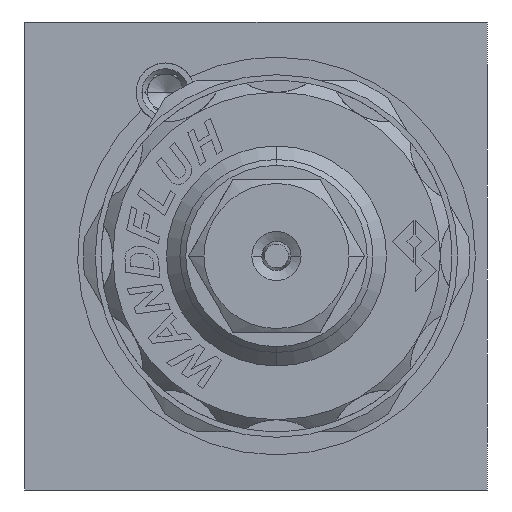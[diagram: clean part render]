
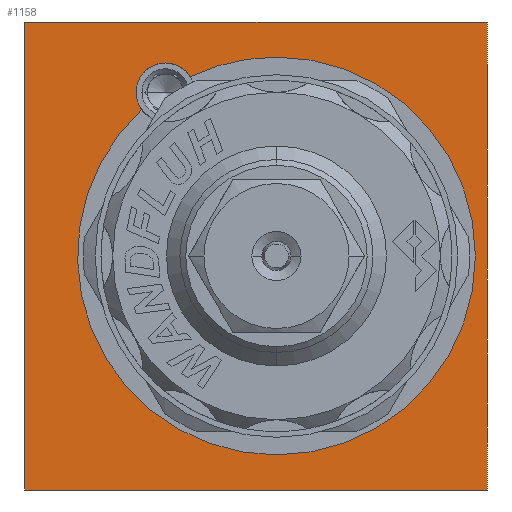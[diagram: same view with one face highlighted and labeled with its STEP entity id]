
A CAD part, left-side view. The second image highlights one B-rep face of the part: STEP entity #1158.
In plain terms, the highlighted planar face has unit normal (-1, 0, 0).
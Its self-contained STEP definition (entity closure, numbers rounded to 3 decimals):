
#792 = DIRECTION ( 'NONE',  ( 0., -1., 0. ) ) ;
#1158 = ADVANCED_FACE ( 'NONE', ( #14007, #13747 ), #12692, .T. ) ;
#1283 = CIRCLE ( 'NONE', #18561, 17. ) ;
#1343 = VERTEX_POINT ( 'NONE', #20631 ) ;
#2148 = LINE ( 'NONE', #13903, #21573 ) ;
#2292 = DIRECTION ( 'NONE',  ( -1., 0., 0. ) ) ;
#2293 = VERTEX_POINT ( 'NONE', #3507 ) ;
#2703 = EDGE_CURVE ( 'NONE', #3111, #14160, #11599, .T. ) ;
#3111 = VERTEX_POINT ( 'NONE', #23974 ) ;
#3408 = DIRECTION ( 'NONE',  ( -1., 0., 0. ) ) ;
#3417 = AXIS2_PLACEMENT_3D ( 'NONE', #19747, #8508, #21663 ) ;
#3507 = CARTESIAN_POINT ( 'NONE',  ( 0., -1.75, -17. ) ) ;
#4230 = AXIS2_PLACEMENT_3D ( 'NONE', #6260, #19393, #8152 ) ;
#5519 = CIRCLE ( 'NONE', #19797, 17. ) ;
#6260 = CARTESIAN_POINT ( 'NONE',  ( 0., 7.75, 14. ) ) ;
#6468 = CARTESIAN_POINT ( 'NONE',  ( 0., -19.75, 20. ) ) ;
#6606 = VECTOR ( 'NONE', #17759, 1000. ) ;
#7015 = CARTESIAN_POINT ( 'NONE',  ( 0., -19.75, -20. ) ) ;
#8152 = DIRECTION ( 'NONE',  ( 0., 0., 1. ) ) ;
#8365 = DIRECTION ( 'NONE',  ( 0., 1., 0. ) ) ;
#8384 = AXIS2_PLACEMENT_3D ( 'NONE', #14664, #3408, #16555 ) ;
#8508 = DIRECTION ( 'NONE',  ( -1., 0., 0. ) ) ;
#8663 = LINE ( 'NONE', #14903, #18036 ) ;
#8913 = CARTESIAN_POINT ( 'NONE',  ( 0., 19.75, -20. ) ) ;
#9062 = CIRCLE ( 'NONE', #4230, 2.5 ) ;
#9135 = EDGE_CURVE ( 'NONE', #18327, #14827, #14376, .T. ) ;
#9778 = DIRECTION ( 'NONE',  ( -1., 0., 0. ) ) ;
#10277 = EDGE_CURVE ( 'NONE', #1343, #3111, #2148, .T. ) ;
#10621 = CARTESIAN_POINT ( 'NONE',  ( 0., -1.75, 0. ) ) ;
#11599 = LINE ( 'NONE', #6468, #6606 ) ;
#12520 = DIRECTION ( 'NONE',  ( 0., 0., 1. ) ) ;
#12692 = PLANE ( 'NONE',  #8384 ) ;
#12801 = EDGE_CURVE ( 'NONE', #14160, #18430, #17858, .T. ) ;
#13027 = CARTESIAN_POINT ( 'NONE',  ( 0., 7.75, 16.5 ) ) ;
#13571 = EDGE_CURVE ( 'NONE', #18430, #1343, #8663, .T. ) ;
#13583 = CARTESIAN_POINT ( 'NONE',  ( 0., -1.75, 0. ) ) ;
#13747 = FACE_OUTER_BOUND ( 'NONE', #18383, .T. ) ;
#13882 = CARTESIAN_POINT ( 'NONE',  ( 0., -19.75, -20. ) ) ;
#13903 = CARTESIAN_POINT ( 'NONE',  ( 0., -19.75, 20. ) ) ;
#14007 = FACE_BOUND ( 'NONE', #24169, .T. ) ;
#14160 = VERTEX_POINT ( 'NONE', #7015 ) ;
#14173 = VERTEX_POINT ( 'NONE', #14465 ) ;
#14376 = CIRCLE ( 'NONE', #23782, 2.5 ) ;
#14415 = ORIENTED_EDGE ( 'NONE', *, *, #24197, .F. ) ;
#14465 = CARTESIAN_POINT ( 'NONE',  ( 0., 9.759, 12.512 ) ) ;
#14664 = CARTESIAN_POINT ( 'NONE',  ( 0., 19.75, -20. ) ) ;
#14690 = ORIENTED_EDGE ( 'NONE', *, *, #2703, .F. ) ;
#14739 = ORIENTED_EDGE ( 'NONE', *, *, #22893, .F. ) ;
#14827 = VERTEX_POINT ( 'NONE', #13027 ) ;
#14903 = CARTESIAN_POINT ( 'NONE',  ( 0., 19.75, 20. ) ) ;
#15457 = DIRECTION ( 'NONE',  ( 0., 0., 1. ) ) ;
#16095 = CARTESIAN_POINT ( 'NONE',  ( 0., -1.75, 17. ) ) ;
#16555 = DIRECTION ( 'NONE',  ( 0., 0., 1. ) ) ;
#16889 = VERTEX_POINT ( 'NONE', #16095 ) ;
#17759 = DIRECTION ( 'NONE',  ( 0., 0., -1. ) ) ;
#17858 = LINE ( 'NONE', #13882, #19916 ) ;
#18036 = VECTOR ( 'NONE', #20543, 1000. ) ;
#18111 = ORIENTED_EDGE ( 'NONE', *, *, #12801, .F. ) ;
#18327 = VERTEX_POINT ( 'NONE', #23389 ) ;
#18383 = EDGE_LOOP ( 'NONE', ( #18111, #14690, #21223, #20260 ) ) ;
#18430 = VERTEX_POINT ( 'NONE', #8913 ) ;
#18561 = AXIS2_PLACEMENT_3D ( 'NONE', #10621, #23801, #12520 ) ;
#19393 = DIRECTION ( 'NONE',  ( -1., 0., 0. ) ) ;
#19747 = CARTESIAN_POINT ( 'NONE',  ( 0., -1.75, 0. ) ) ;
#19797 = AXIS2_PLACEMENT_3D ( 'NONE', #13583, #2292, #15457 ) ;
#19916 = VECTOR ( 'NONE', #8365, 1000. ) ;
#20260 = ORIENTED_EDGE ( 'NONE', *, *, #13571, .F. ) ;
#20543 = DIRECTION ( 'NONE',  ( 0., 0., 1. ) ) ;
#20631 = CARTESIAN_POINT ( 'NONE',  ( 0., 19.75, 20. ) ) ;
#21020 = CARTESIAN_POINT ( 'NONE',  ( 0., 7.75, 14. ) ) ;
#21223 = ORIENTED_EDGE ( 'NONE', *, *, #10277, .F. ) ;
#21559 = EDGE_CURVE ( 'NONE', #16889, #18327, #21849, .T. ) ;
#21573 = VECTOR ( 'NONE', #792, 1000. ) ;
#21663 = DIRECTION ( 'NONE',  ( 0., 0., 1. ) ) ;
#21849 = CIRCLE ( 'NONE', #3417, 17. ) ;
#22834 = EDGE_CURVE ( 'NONE', #2293, #16889, #5519, .T. ) ;
#22893 = EDGE_CURVE ( 'NONE', #14827, #14173, #9062, .T. ) ;
#22931 = DIRECTION ( 'NONE',  ( 0., 0., 1. ) ) ;
#22985 = ORIENTED_EDGE ( 'NONE', *, *, #22834, .F. ) ;
#23285 = ORIENTED_EDGE ( 'NONE', *, *, #21559, .F. ) ;
#23389 = CARTESIAN_POINT ( 'NONE',  ( 0., 5.625, 15.317 ) ) ;
#23505 = ORIENTED_EDGE ( 'NONE', *, *, #9135, .F. ) ;
#23782 = AXIS2_PLACEMENT_3D ( 'NONE', #21020, #9778, #22931 ) ;
#23801 = DIRECTION ( 'NONE',  ( -1., 0., 0. ) ) ;
#23974 = CARTESIAN_POINT ( 'NONE',  ( 0., -19.75, 20. ) ) ;
#24169 = EDGE_LOOP ( 'NONE', ( #23505, #23285, #22985, #14415, #14739 ) ) ;
#24197 = EDGE_CURVE ( 'NONE', #14173, #2293, #1283, .T. ) ;
